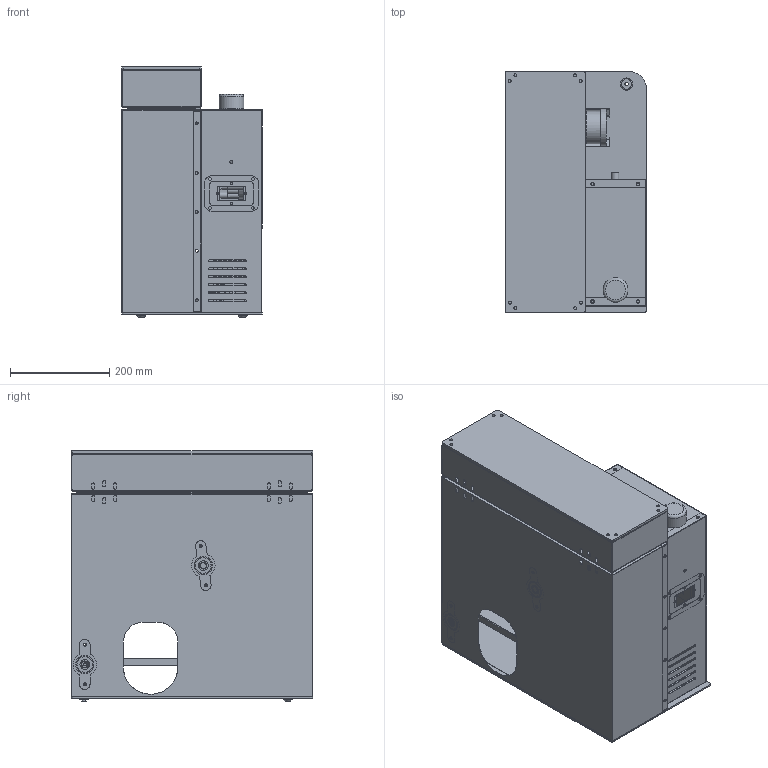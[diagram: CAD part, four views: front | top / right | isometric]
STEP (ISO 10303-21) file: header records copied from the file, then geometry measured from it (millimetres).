
FILE_DESCRIPTION(/* description */ (''),/* implementation_level */ '2;1');
FILE_NAME(/* name */ '/Users/ignasi_plaza/Desktop/OxyGEN/OxyGEN/oxygenIP/VENTILATOR V14 PRODUCT v1.step',/* time_stamp */ '2020-03-30T22:55:08+02:00',/* author */ (''),/* organization */ (''),/* preprocessor_version */ 'ST-DEVELOPER v18',/* originating_system */ 'Autodesk Translation Framework v8.12.0.6',/* authorisation */ '');
FILE_SCHEMA (('AUTOMOTIVE_DESIGN { 1 0 10303 214 3 1 1 }'));
Products named in the file (1): VENTILATOR V14 PRODUCT
Bounding box: 283.5 x 485.5 x 504 mm (x, y, z)
Volume: 3604248.2 mm3; surface area: 3041352 mm2
Topology: 124 solids, 128 shells, 5421 faces, 15409 edges, 10217 vertices
Faces by surface type: plane 4273, cylinder 741, torus 178, bspline 174, cone 29, sphere 26
Full cylindrical faces by diameter (mm): 0.8 x3, 1 x2, 1.5 x5, 1.65 x4, 2.5 x12, 3 x1, 3.1 x1, 3.242 x4, 3.3 x2, 3.75 x4, 4 x26, 4.2 x3, 4.8 x1, 5 x14, 5.2 x2, 6 x106, 7 x14, 7.2 x16, 8 x6, 9 x8, 10 x2, 10.3 x2, 11.2 x1, 11.5 x4, 12 x16, 12.05 x1, 12.1 x1, 14.8 x1, 14.939 x1, 15 x7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
Entity records: 190553 total; most frequent: CARTESIAN_POINT 46344, ORIENTED_EDGE 30732, DIRECTION 27751, EDGE_CURVE 15366, LINE 12435, VECTOR 12435, VERTEX_POINT 10219, AXIS2_PLACEMENT_3D 7658
